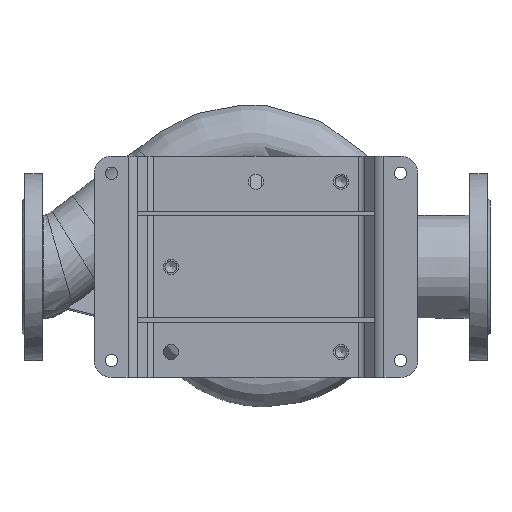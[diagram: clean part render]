
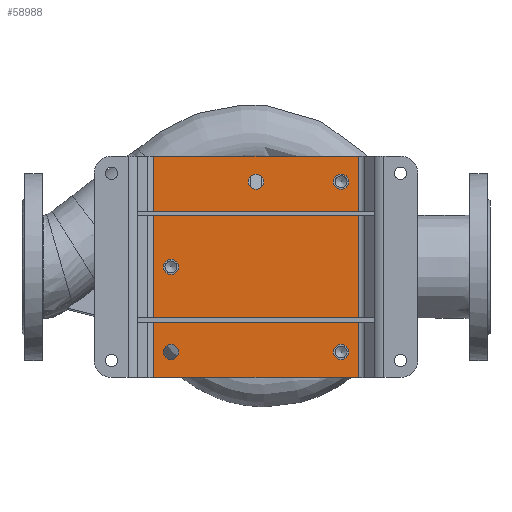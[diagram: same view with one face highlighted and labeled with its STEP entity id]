
A CAD part, top view. The second image highlights one B-rep face of the part: STEP entity #58988.
In plain terms, the highlighted planar face has unit normal (0, 0, 1) as drawn and (0, -1, 0) by its records, which use the part's own axes.
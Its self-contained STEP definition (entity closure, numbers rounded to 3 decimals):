
#215 = CARTESIAN_POINT ( 'NONE',  ( 120., -5., 130. ) ) ;
#1072 = CARTESIAN_POINT ( 'NONE',  ( -120., -5., 130. ) ) ;
#3053 = CARTESIAN_POINT ( 'NONE',  ( -100., -5., -100. ) ) ;
#3434 = VERTEX_POINT ( 'NONE', #32571 ) ;
#3857 = LINE ( 'NONE', #28766, #42551 ) ;
#4592 = ORIENTED_EDGE ( 'NONE', *, *, #49532, .F. ) ;
#4719 = LINE ( 'NONE', #215, #41993 ) ;
#4888 = EDGE_LOOP ( 'NONE', ( #44804, #21079, #50297, #42080 ) ) ;
#5325 = DIRECTION ( 'NONE',  ( 0., 0., -1. ) ) ;
#5399 = DIRECTION ( 'NONE',  ( 0., -1., 0. ) ) ;
#5907 = LINE ( 'NONE', #1072, #25182 ) ;
#6054 = DIRECTION ( 'NONE',  ( 0., -1., 0. ) ) ;
#9093 = CARTESIAN_POINT ( 'NONE',  ( 100., -5., 100. ) ) ;
#9582 = DIRECTION ( 'NONE',  ( 0., 0., -1. ) ) ;
#9628 = FACE_BOUND ( 'NONE', #36989, .T. ) ;
#10509 = DIRECTION ( 'NONE',  ( 0., -1., 0. ) ) ;
#10609 = CARTESIAN_POINT ( 'NONE',  ( 100., -5., 91. ) ) ;
#10650 = CIRCLE ( 'NONE', #16860, 9. ) ;
#13063 = CIRCLE ( 'NONE', #41963, 9. ) ;
#13441 = DIRECTION ( 'NONE',  ( 1., 0., 0. ) ) ;
#13941 = CIRCLE ( 'NONE', #30448, 9. ) ;
#14051 = DIRECTION ( 'NONE',  ( 0., -1., 0. ) ) ;
#14489 = FACE_OUTER_BOUND ( 'NONE', #4888, .T. ) ;
#15122 = FACE_BOUND ( 'NONE', #62141, .T. ) ;
#16860 = AXIS2_PLACEMENT_3D ( 'NONE', #18940, #29290, #5325 ) ;
#17973 = CARTESIAN_POINT ( 'NONE',  ( -120., -5., 130. ) ) ;
#18209 = ORIENTED_EDGE ( 'NONE', *, *, #29982, .F. ) ;
#18523 = EDGE_CURVE ( 'NONE', #47538, #47538, #30794, .T. ) ;
#18775 = EDGE_LOOP ( 'NONE', ( #35188 ) ) ;
#18940 = CARTESIAN_POINT ( 'NONE',  ( 0., -5., -100. ) ) ;
#19123 = DIRECTION ( 'NONE',  ( 0., -1., 0. ) ) ;
#19343 = DIRECTION ( 'NONE',  ( 0., 0., -1. ) ) ;
#19708 = DIRECTION ( 'NONE',  ( -1., 0., 0. ) ) ;
#19908 = CARTESIAN_POINT ( 'NONE',  ( -100., -5., 100. ) ) ;
#20155 = CARTESIAN_POINT ( 'NONE',  ( 120., -5., -130. ) ) ;
#20645 = DIRECTION ( 'NONE',  ( 0., 0., -1. ) ) ;
#21079 = ORIENTED_EDGE ( 'NONE', *, *, #28150, .F. ) ;
#21495 = VERTEX_POINT ( 'NONE', #26330 ) ;
#24348 = VERTEX_POINT ( 'NONE', #61009 ) ;
#24999 = CIRCLE ( 'NONE', #57094, 9. ) ;
#25070 = EDGE_LOOP ( 'NONE', ( #4592 ) ) ;
#25182 = VECTOR ( 'NONE', #42120, 1000. ) ;
#26330 = CARTESIAN_POINT ( 'NONE',  ( 100., -5., -9. ) ) ;
#28150 = EDGE_CURVE ( 'NONE', #24348, #61653, #63310, .T. ) ;
#28766 = CARTESIAN_POINT ( 'NONE',  ( -120., -5., -130. ) ) ;
#29290 = DIRECTION ( 'NONE',  ( 0., -1., 0. ) ) ;
#29982 = EDGE_CURVE ( 'NONE', #35169, #35169, #24999, .T. ) ;
#30448 = AXIS2_PLACEMENT_3D ( 'NONE', #3053, #14051, #33129 ) ;
#30794 = CIRCLE ( 'NONE', #57739, 9. ) ;
#30922 = EDGE_CURVE ( 'NONE', #49436, #47647, #3857, .T. ) ;
#31831 = AXIS2_PLACEMENT_3D ( 'NONE', #48477, #5399, #19343 ) ;
#32571 = CARTESIAN_POINT ( 'NONE',  ( 0., -5., -109. ) ) ;
#32888 = CARTESIAN_POINT ( 'NONE',  ( -100., -5., -109. ) ) ;
#33129 = DIRECTION ( 'NONE',  ( 0., 0., -1. ) ) ;
#33514 = VERTEX_POINT ( 'NONE', #32888 ) ;
#33876 = FACE_BOUND ( 'NONE', #18775, .T. ) ;
#35169 = VERTEX_POINT ( 'NONE', #10609 ) ;
#35188 = ORIENTED_EDGE ( 'NONE', *, *, #45027, .F. ) ;
#35384 = DIRECTION ( 'NONE',  ( 0., 0., -1. ) ) ;
#36165 = ORIENTED_EDGE ( 'NONE', *, *, #38884, .F. ) ;
#36551 = EDGE_CURVE ( 'NONE', #47647, #24348, #5907, .T. ) ;
#36989 = EDGE_LOOP ( 'NONE', ( #36165 ) ) ;
#38830 = DIRECTION ( 'NONE',  ( 0., 0., -1. ) ) ;
#38884 = EDGE_CURVE ( 'NONE', #3434, #3434, #10650, .T. ) ;
#39318 = VECTOR ( 'NONE', #13441, 1000. ) ;
#41963 = AXIS2_PLACEMENT_3D ( 'NONE', #56266, #6054, #20645 ) ;
#41993 = VECTOR ( 'NONE', #9582, 1000. ) ;
#42080 = ORIENTED_EDGE ( 'NONE', *, *, #30922, .F. ) ;
#42120 = DIRECTION ( 'NONE',  ( 0., 0., 1. ) ) ;
#42551 = VECTOR ( 'NONE', #19708, 1000. ) ;
#44804 = ORIENTED_EDGE ( 'NONE', *, *, #51086, .F. ) ;
#45027 = EDGE_CURVE ( 'NONE', #33514, #33514, #13941, .T. ) ;
#45400 = ORIENTED_EDGE ( 'NONE', *, *, #18523, .F. ) ;
#47538 = VERTEX_POINT ( 'NONE', #58232 ) ;
#47647 = VERTEX_POINT ( 'NONE', #53988 ) ;
#48477 = CARTESIAN_POINT ( 'NONE',  ( 0., -5., 0. ) ) ;
#49436 = VERTEX_POINT ( 'NONE', #20155 ) ;
#49532 = EDGE_CURVE ( 'NONE', #21495, #21495, #13063, .T. ) ;
#50297 = ORIENTED_EDGE ( 'NONE', *, *, #36551, .F. ) ;
#51086 = EDGE_CURVE ( 'NONE', #61653, #49436, #4719, .T. ) ;
#53670 = FACE_BOUND ( 'NONE', #25070, .T. ) ;
#53988 = CARTESIAN_POINT ( 'NONE',  ( -120., -5., -130. ) ) ;
#55505 = EDGE_LOOP ( 'NONE', ( #45400 ) ) ;
#56266 = CARTESIAN_POINT ( 'NONE',  ( 100., -5., 0. ) ) ;
#57094 = AXIS2_PLACEMENT_3D ( 'NONE', #9093, #19123, #38830 ) ;
#57739 = AXIS2_PLACEMENT_3D ( 'NONE', #19908, #10509, #35384 ) ;
#58232 = CARTESIAN_POINT ( 'NONE',  ( -100., -5., 91. ) ) ;
#58988 = ADVANCED_FACE ( 'NONE', ( #53670, #33876, #9628, #15122, #63739, #14489 ), #59503, .T. ) ;
#59503 = PLANE ( 'NONE',  #31831 ) ;
#61009 = CARTESIAN_POINT ( 'NONE',  ( -120., -5., 130. ) ) ;
#61496 = CARTESIAN_POINT ( 'NONE',  ( 120., -5., 130. ) ) ;
#61653 = VERTEX_POINT ( 'NONE', #61496 ) ;
#62141 = EDGE_LOOP ( 'NONE', ( #18209 ) ) ;
#63310 = LINE ( 'NONE', #17973, #39318 ) ;
#63739 = FACE_BOUND ( 'NONE', #55505, .T. ) ;
